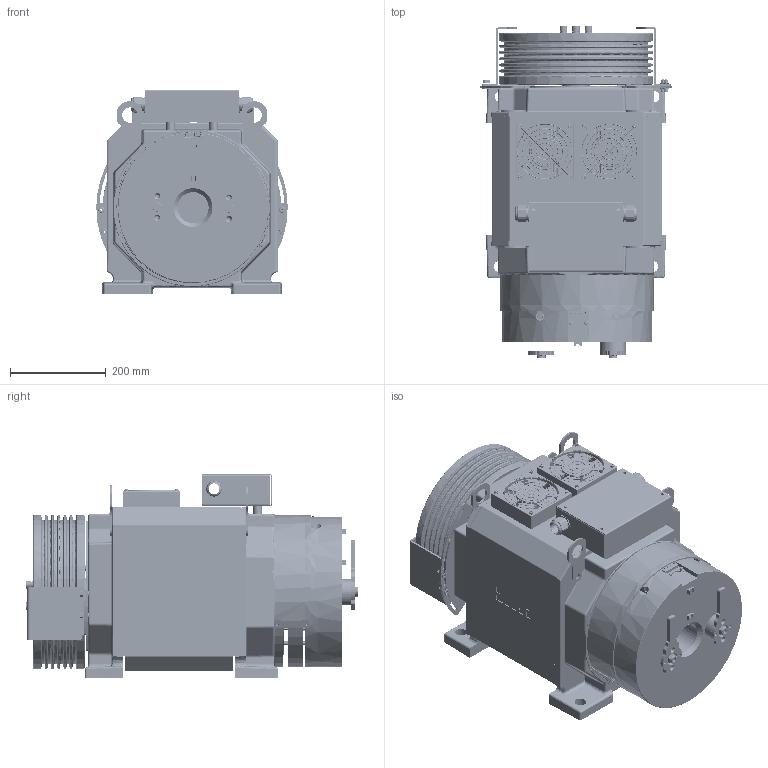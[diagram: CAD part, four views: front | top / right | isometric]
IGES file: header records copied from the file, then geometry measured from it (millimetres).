
Start section: START RECORD GO HERE.
Global section: file name: BM360.igs; native system: DASSAULT SYSTEMES CATIA Version 5-6 Release 2017 - www.3ds.com; preprocessor: V5-6R2017_5.27.2.0.03-10-2017.22.00; author: j_siahi; organization: BEHRANLIFT; date: 20230520.091703; units: millimetre
Bounding box: 399.99 x 692.95 x 426.5 mm (x, y, z)
Surface area: 3055196.7 mm2 (no closed solid volume)
Topology: 0 solids, 0 shells, 3720 faces, 20149 edges, 20088 vertices
Faces by surface type: revolution 2026, plane 1289, bspline 343, extrusion 62
